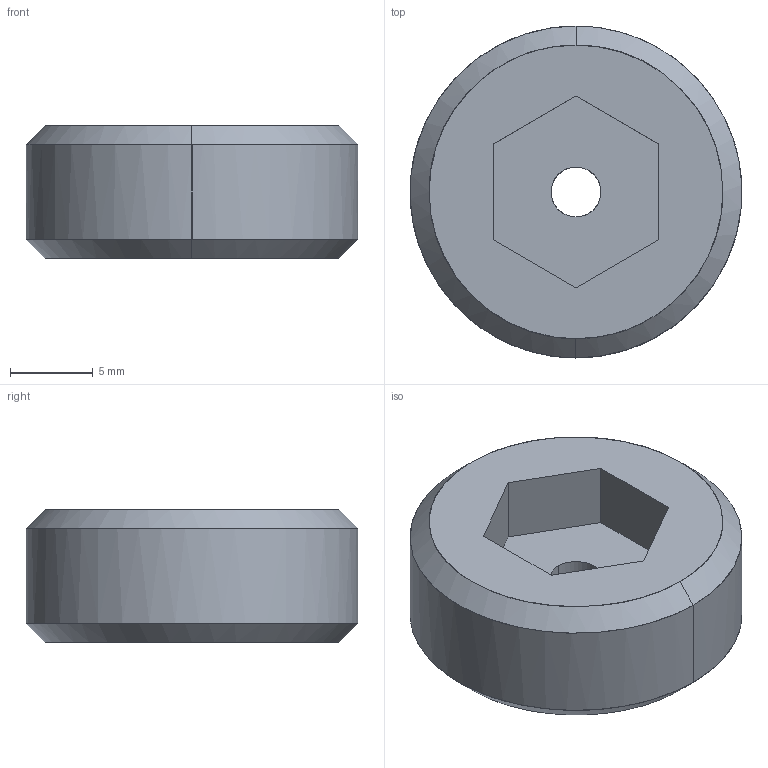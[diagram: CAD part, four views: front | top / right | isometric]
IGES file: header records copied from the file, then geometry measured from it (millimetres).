
Global section: file name: E:\UnigraphicsGraphicData\MISUMI_PRESS-PARTS\IGES\3d_mswsh20-8_00472_r00.igs; native system: NX V5.0; preprocessor: UGS NX IGES V5.0; author: MISUMI; date: 20110105.161527; units: millimetre
Bounding box: 19.98 x 20 x 8 mm (x, y, z)
Surface area: 1206.6 mm2 (no closed solid volume)
Topology: 0 solids, 0 shells, 17 faces, 100 edges, 100 vertices
Faces by surface type: bspline 17
